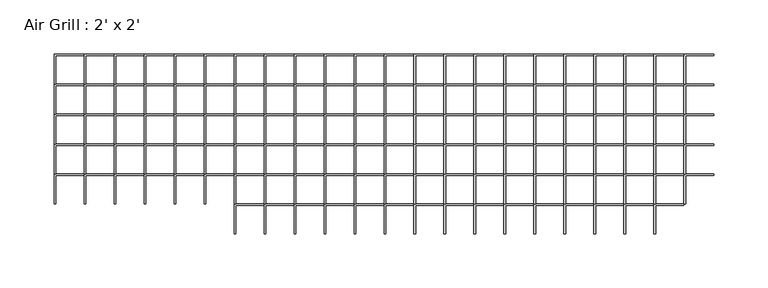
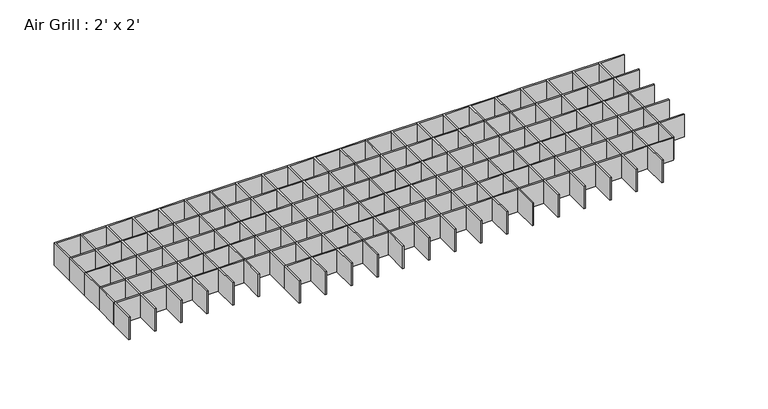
"""IFC4 building model written with IfcOpenShell, lengths in millimetres: proxy geometry, Air Grill : 2' x 2'."""

from ifc_helpers import new_model, si_unit, frame, origin, place, context, project, spatial, polyline, outline, extrude, source, transform, mapped, element, save


def air_grill_2_x_2_3d4e8104(model_context):
    return source(origin(), model_context, "Body", "SweptSolid", [
        extrude(outline(polyline([(247.9386364, 277.1630682), (275.5755682, 277.1630682), (275.5755682, 275.5755682), (249.5261364, 275.5755682), (249.5261364, 249.5261364), (247.9386364, 249.5261364), (247.9386364, 277.1630682)])), frame((0.0, 0.0, 2438.4), z_axis=(0.0, 0.0, 1.0), x_axis=(1.0, 0.0, 0.0)), (0.0, 0.0, 1.0), 25.4),
        extrude(outline(polyline([(220.3017045, 277.1630682), (247.9386364, 277.1630682), (247.9386364, 275.5755682), (221.8892045, 275.5755682), (221.8892045, 249.5261364), (220.3017045, 249.5261364), (220.3017045, 277.1630682)])), frame((0.0, 0.0, 2438.4), z_axis=(0.0, 0.0, 1.0), x_axis=(1.0, 0.0, 0.0)), (0.0, 0.0, 1.0), 25.4),
        extrude(outline(polyline([(192.6647727, 277.1630682), (220.3017045, 277.1630682), (220.3017045, 275.5755682), (194.2522727, 275.5755682), (194.2522727, 249.5261364), (192.6647727, 249.5261364), (192.6647727, 277.1630682)])), frame((0.0, 0.0, 2438.4), z_axis=(0.0, 0.0, 1.0), x_axis=(1.0, 0.0, 0.0)), (0.0, 0.0, 1.0), 25.4),
        extrude(outline(polyline([(165.0278409, 277.1630682), (192.6647727, 277.1630682), (192.6647727, 275.5755682), (166.6153409, 275.5755682), (166.6153409, 249.5261364), (165.0278409, 249.5261364), (165.0278409, 277.1630682)])), frame((0.0, 0.0, 2438.4), z_axis=(0.0, 0.0, 1.0), x_axis=(1.0, 0.0, 0.0)), (0.0, 0.0, 1.0), 25.4),
        extrude(outline(polyline([(137.3909091, 277.1630682), (165.0278409, 277.1630682), (165.0278409, 275.5755682), (138.9784091, 275.5755682), (138.9784091, 249.5261364), (137.3909091, 249.5261364), (137.3909091, 277.1630682)])), frame((0.0, 0.0, 2438.4), z_axis=(0.0, 0.0, 1.0), x_axis=(1.0, 0.0, 0.0)), (0.0, 0.0, 1.0), 25.4),
        extrude(outline(polyline([(109.7539773, 277.1630682), (137.3909091, 277.1630682), (137.3909091, 275.5755682), (111.3414773, 275.5755682), (111.3414773, 249.5261364), (109.7539773, 249.5261364), (109.7539773, 277.1630682)])), frame((0.0, 0.0, 2438.4), z_axis=(0.0, 0.0, 1.0), x_axis=(1.0, 0.0, 0.0)), (0.0, 0.0, 1.0), 25.4),
        extrude(outline(polyline([(82.1170455, 277.1630682), (109.7539773, 277.1630682), (109.7539773, 275.5755682), (83.7045455, 275.5755682), (83.7045455, 249.5261364), (82.1170455, 249.5261364), (82.1170455, 277.1630682)])), frame((0.0, 0.0, 2438.4), z_axis=(0.0, 0.0, 1.0), x_axis=(1.0, 0.0, 0.0)), (0.0, 0.0, 1.0), 25.4),
        extrude(outline(polyline([(54.4801136, 277.1630682), (82.1170455, 277.1630682), (82.1170455, 275.5755682), (56.0676136, 275.5755682), (56.0676136, 249.5261364), (54.4801136, 249.5261364), (54.4801136, 277.1630682)])), frame((0.0, 0.0, 2438.4), z_axis=(0.0, 0.0, 1.0), x_axis=(1.0, 0.0, 0.0)), (0.0, 0.0, 1.0), 25.4),
        extrude(outline(polyline([(26.8431818, 277.1630682), (54.4801136, 277.1630682), (54.4801136, 275.5755682), (28.4306818, 275.5755682), (28.4306818, 249.5261364), (26.8431818, 249.5261364), (26.8431818, 277.1630682)])), frame((0.0, 0.0, 2438.4), z_axis=(0.0, 0.0, 1.0), x_axis=(1.0, 0.0, 0.0)), (0.0, 0.0, 1.0), 25.4),
        extrude(outline(polyline([(-0.79375, 277.1630682), (26.8431818, 277.1630682), (26.8431818, 275.5755682), (0.79375, 275.5755682), (0.79375, 249.5261364), (-0.79375, 249.5261364), (-0.79375, 277.1630682)])), frame((0.0, 0.0, 2438.4), z_axis=(0.0, 0.0, 1.0), x_axis=(1.0, 0.0, 0.0)), (0.0, 0.0, 1.0), 25.4),
        extrude(outline(polyline([(-28.4306818, 277.1630682), (-0.79375, 277.1630682), (-0.79375, 275.5755682), (-26.8431818, 275.5755682), (-26.8431818, 249.5261364), (-28.4306818, 249.5261364), (-28.4306818, 277.1630682)])), frame((0.0, 0.0, 2438.4), z_axis=(0.0, 0.0, 1.0), x_axis=(1.0, 0.0, 0.0)), (0.0, 0.0, 1.0), 25.4),
        extrude(outline(polyline([(-56.0676136, 277.1630682), (-28.4306818, 277.1630682), (-28.4306818, 275.5755682), (-54.4801136, 275.5755682), (-54.4801136, 249.5261364), (-56.0676136, 249.5261364), (-56.0676136, 277.1630682)])), frame((0.0, 0.0, 2438.4), z_axis=(0.0, 0.0, 1.0), x_axis=(1.0, 0.0, 0.0)), (0.0, 0.0, 1.0), 25.4),
        extrude(outline(polyline([(-83.7045455, 277.1630682), (-56.0676136, 277.1630682), (-56.0676136, 275.5755682), (-82.1170455, 275.5755682), (-82.1170455, 249.5261364), (-83.7045455, 249.5261364), (-83.7045455, 277.1630682)])), frame((0.0, 0.0, 2438.4), z_axis=(0.0, 0.0, 1.0), x_axis=(1.0, 0.0, 0.0)), (0.0, 0.0, 1.0), 25.4),
        extrude(outline(polyline([(-111.3414773, 277.1630682), (-83.7045455, 277.1630682), (-83.7045455, 275.5755682), (-109.7539773, 275.5755682), (-109.7539773, 249.5261364), (-111.3414773, 249.5261364), (-111.3414773, 277.1630682)])), frame((0.0, 0.0, 2438.4), z_axis=(0.0, 0.0, 1.0), x_axis=(1.0, 0.0, 0.0)), (0.0, 0.0, 1.0), 25.4),
        extrude(outline(polyline([(-138.9784091, 277.1630682), (-111.3414773, 277.1630682), (-111.3414773, 275.5755682), (-137.3909091, 275.5755682), (-137.3909091, 249.5261364), (-138.9784091, 249.5261364), (-138.9784091, 277.1630682)])), frame((0.0, 0.0, 2438.4), z_axis=(0.0, 0.0, 1.0), x_axis=(1.0, 0.0, 0.0)), (0.0, 0.0, 1.0), 25.4),
        extrude(outline(polyline([(-166.6153409, 277.1630682), (-138.9784091, 277.1630682), (-138.9784091, 275.5755682), (-165.0278409, 275.5755682), (-165.0278409, 249.5261364), (-166.6153409, 249.5261364), (-166.6153409, 277.1630682)])), frame((0.0, 0.0, 2438.4), z_axis=(0.0, 0.0, 1.0), x_axis=(1.0, 0.0, 0.0)), (0.0, 0.0, 1.0), 25.4),
        extrude(outline(polyline([(-194.2522727, 277.1630682), (-166.6153409, 277.1630682), (-166.6153409, 275.5755682), (-192.6647727, 275.5755682), (-192.6647727, 249.5261364), (-194.2522727, 249.5261364), (-194.2522727, 277.1630682)])), frame((0.0, 0.0, 2438.4), z_axis=(0.0, 0.0, 1.0), x_axis=(1.0, 0.0, 0.0)), (0.0, 0.0, 1.0), 25.4),
        extrude(outline(polyline([(-221.8892045, 277.1630682), (-194.2522727, 277.1630682), (-194.2522727, 275.5755682), (-220.3017045, 275.5755682), (-220.3017045, 249.5261364), (-221.8892045, 249.5261364), (-221.8892045, 277.1630682)])), frame((0.0, 0.0, 2438.4), z_axis=(0.0, 0.0, 1.0), x_axis=(1.0, 0.0, 0.0)), (0.0, 0.0, 1.0), 25.4),
        extrude(outline(polyline([(-249.5261364, 277.1630682), (-221.8892045, 277.1630682), (-221.8892045, 275.5755682), (-247.9386364, 275.5755682), (-247.9386364, 249.5261364), (-249.5261364, 249.5261364), (-249.5261364, 277.1630682)])), frame((0.0, 0.0, 2438.4), z_axis=(0.0, 0.0, 1.0), x_axis=(1.0, 0.0, 0.0)), (0.0, 0.0, 1.0), 25.4),
        extrude(outline(polyline([(-277.1630682, 277.1630682), (-249.5261364, 277.1630682), (-249.5261364, 275.5755682), (-275.5755682, 275.5755682), (-275.5755682, 249.5261364), (-277.1630682, 249.5261364), (-277.1630682, 277.1630682)])), frame((0.0, 0.0, 2438.4), z_axis=(0.0, 0.0, 1.0), x_axis=(1.0, 0.0, 0.0)), (0.0, 0.0, 1.0), 25.4),
        extrude(outline(polyline([(275.5755682, 277.1630682), (303.2125, 277.1630682), (303.2125, 275.5755682), (277.1630682, 275.5755682), (277.1630682, 249.5261364), (275.5755682, 249.5261364), (275.5755682, 277.1630682)])), frame((0.0, 0.0, 2438.4), z_axis=(0.0, 0.0, 1.0), x_axis=(1.0, 0.0, 0.0)), (0.0, 0.0, 1.0), 25.4),
        extrude(outline(polyline([(-304.8, 277.1630682), (-277.1630682, 277.1630682), (-277.1630682, 275.5755682), (-303.2125, 275.5755682), (-303.2125, 249.5261364), (-304.8, 249.5261364), (-304.8, 277.1630682)])), frame((0.0, 0.0, 2438.4), z_axis=(0.0, 0.0, 1.0), x_axis=(1.0, 0.0, 0.0)), (0.0, 0.0, 1.0), 25.4),
        extrude(outline(polyline([(247.9386364, 249.5261364), (275.5755682, 249.5261364), (275.5755682, 247.9386364), (249.5261364, 247.9386364), (249.5261364, 221.8892045), (247.9386364, 221.8892045), (247.9386364, 249.5261364)])), frame((0.0, 0.0, 2438.4), z_axis=(0.0, 0.0, 1.0), x_axis=(1.0, 0.0, 0.0)), (0.0, 0.0, 1.0), 25.4),
        extrude(outline(polyline([(220.3017045, 249.5261364), (247.9386364, 249.5261364), (247.9386364, 247.9386364), (221.8892045, 247.9386364), (221.8892045, 221.8892045), (220.3017045, 221.8892045), (220.3017045, 249.5261364)])), frame((0.0, 0.0, 2438.4), z_axis=(0.0, 0.0, 1.0), x_axis=(1.0, 0.0, 0.0)), (0.0, 0.0, 1.0), 25.4),
        extrude(outline(polyline([(192.6647727, 249.5261364), (220.3017045, 249.5261364), (220.3017045, 247.9386364), (194.2522727, 247.9386364), (194.2522727, 221.8892045), (192.6647727, 221.8892045), (192.6647727, 249.5261364)])), frame((0.0, 0.0, 2438.4), z_axis=(0.0, 0.0, 1.0), x_axis=(1.0, 0.0, 0.0)), (0.0, 0.0, 1.0), 25.4),
        extrude(outline(polyline([(165.0278409, 249.5261364), (192.6647727, 249.5261364), (192.6647727, 247.9386364), (166.6153409, 247.9386364), (166.6153409, 221.8892045), (165.0278409, 221.8892045), (165.0278409, 249.5261364)])), frame((0.0, 0.0, 2438.4), z_axis=(0.0, 0.0, 1.0), x_axis=(1.0, 0.0, 0.0)), (0.0, 0.0, 1.0), 25.4),
        extrude(outline(polyline([(137.3909091, 249.5261364), (165.0278409, 249.5261364), (165.0278409, 247.9386364), (138.9784091, 247.9386364), (138.9784091, 221.8892045), (137.3909091, 221.8892045), (137.3909091, 249.5261364)])), frame((0.0, 0.0, 2438.4), z_axis=(0.0, 0.0, 1.0), x_axis=(1.0, 0.0, 0.0)), (0.0, 0.0, 1.0), 25.4),
        extrude(outline(polyline([(109.7539773, 249.5261364), (137.3909091, 249.5261364), (137.3909091, 247.9386364), (111.3414773, 247.9386364), (111.3414773, 221.8892045), (109.7539773, 221.8892045), (109.7539773, 249.5261364)])), frame((0.0, 0.0, 2438.4), z_axis=(0.0, 0.0, 1.0), x_axis=(1.0, 0.0, 0.0)), (0.0, 0.0, 1.0), 25.4),
        extrude(outline(polyline([(82.1170455, 249.5261364), (109.7539773, 249.5261364), (109.7539773, 247.9386364), (83.7045455, 247.9386364), (83.7045455, 221.8892045), (82.1170455, 221.8892045), (82.1170455, 249.5261364)])), frame((0.0, 0.0, 2438.4), z_axis=(0.0, 0.0, 1.0), x_axis=(1.0, 0.0, 0.0)), (0.0, 0.0, 1.0), 25.4),
        extrude(outline(polyline([(54.4801136, 249.5261364), (82.1170455, 249.5261364), (82.1170455, 247.9386364), (56.0676136, 247.9386364), (56.0676136, 221.8892045), (54.4801136, 221.8892045), (54.4801136, 249.5261364)])), frame((0.0, 0.0, 2438.4), z_axis=(0.0, 0.0, 1.0), x_axis=(1.0, 0.0, 0.0)), (0.0, 0.0, 1.0), 25.4),
        extrude(outline(polyline([(26.8431818, 249.5261364), (54.4801136, 249.5261364), (54.4801136, 247.9386364), (28.4306818, 247.9386364), (28.4306818, 221.8892045), (26.8431818, 221.8892045), (26.8431818, 249.5261364)])), frame((0.0, 0.0, 2438.4), z_axis=(0.0, 0.0, 1.0), x_axis=(1.0, 0.0, 0.0)), (0.0, 0.0, 1.0), 25.4),
        extrude(outline(polyline([(-0.79375, 249.5261364), (26.8431818, 249.5261364), (26.8431818, 247.9386364), (0.79375, 247.9386364), (0.79375, 221.8892045), (-0.79375, 221.8892045), (-0.79375, 249.5261364)])), frame((0.0, 0.0, 2438.4), z_axis=(0.0, 0.0, 1.0), x_axis=(1.0, 0.0, 0.0)), (0.0, 0.0, 1.0), 25.4),
        extrude(outline(polyline([(-28.4306818, 249.5261364), (-0.79375, 249.5261364), (-0.79375, 247.9386364), (-26.8431818, 247.9386364), (-26.8431818, 221.8892045), (-28.4306818, 221.8892045), (-28.4306818, 249.5261364)])), frame((0.0, 0.0, 2438.4), z_axis=(0.0, 0.0, 1.0), x_axis=(1.0, 0.0, 0.0)), (0.0, 0.0, 1.0), 25.4),
        extrude(outline(polyline([(-56.0676136, 249.5261364), (-28.4306818, 249.5261364), (-28.4306818, 247.9386364), (-54.4801136, 247.9386364), (-54.4801136, 221.8892045), (-56.0676136, 221.8892045), (-56.0676136, 249.5261364)])), frame((0.0, 0.0, 2438.4), z_axis=(0.0, 0.0, 1.0), x_axis=(1.0, 0.0, 0.0)), (0.0, 0.0, 1.0), 25.4),
        extrude(outline(polyline([(-83.7045455, 249.5261364), (-56.0676136, 249.5261364), (-56.0676136, 247.9386364), (-82.1170455, 247.9386364), (-82.1170455, 221.8892045), (-83.7045455, 221.8892045), (-83.7045455, 249.5261364)])), frame((0.0, 0.0, 2438.4), z_axis=(0.0, 0.0, 1.0), x_axis=(1.0, 0.0, 0.0)), (0.0, 0.0, 1.0), 25.4),
        extrude(outline(polyline([(-111.3414773, 249.5261364), (-83.7045455, 249.5261364), (-83.7045455, 247.9386364), (-109.7539773, 247.9386364), (-109.7539773, 221.8892045), (-111.3414773, 221.8892045), (-111.3414773, 249.5261364)])), frame((0.0, 0.0, 2438.4), z_axis=(0.0, 0.0, 1.0), x_axis=(1.0, 0.0, 0.0)), (0.0, 0.0, 1.0), 25.4),
        extrude(outline(polyline([(-138.9784091, 249.5261364), (-111.3414773, 249.5261364), (-111.3414773, 247.9386364), (-137.3909091, 247.9386364), (-137.3909091, 221.8892045), (-138.9784091, 221.8892045), (-138.9784091, 249.5261364)])), frame((0.0, 0.0, 2438.4), z_axis=(0.0, 0.0, 1.0), x_axis=(1.0, 0.0, 0.0)), (0.0, 0.0, 1.0), 25.4),
        extrude(outline(polyline([(-166.6153409, 249.5261364), (-138.9784091, 249.5261364), (-138.9784091, 247.9386364), (-165.0278409, 247.9386364), (-165.0278409, 221.8892045), (-166.6153409, 221.8892045), (-166.6153409, 249.5261364)])), frame((0.0, 0.0, 2438.4), z_axis=(0.0, 0.0, 1.0), x_axis=(1.0, 0.0, 0.0)), (0.0, 0.0, 1.0), 25.4),
        extrude(outline(polyline([(-194.2522727, 249.5261364), (-166.6153409, 249.5261364), (-166.6153409, 247.9386364), (-192.6647727, 247.9386364), (-192.6647727, 221.8892045), (-194.2522727, 221.8892045), (-194.2522727, 249.5261364)])), frame((0.0, 0.0, 2438.4), z_axis=(0.0, 0.0, 1.0), x_axis=(1.0, 0.0, 0.0)), (0.0, 0.0, 1.0), 25.4),
        extrude(outline(polyline([(-221.8892045, 249.5261364), (-194.2522727, 249.5261364), (-194.2522727, 247.9386364), (-220.3017045, 247.9386364), (-220.3017045, 221.8892045), (-221.8892045, 221.8892045), (-221.8892045, 249.5261364)])), frame((0.0, 0.0, 2438.4), z_axis=(0.0, 0.0, 1.0), x_axis=(1.0, 0.0, 0.0)), (0.0, 0.0, 1.0), 25.4),
        extrude(outline(polyline([(-249.5261364, 249.5261364), (-221.8892045, 249.5261364), (-221.8892045, 247.9386364), (-247.9386364, 247.9386364), (-247.9386364, 221.8892045), (-249.5261364, 221.8892045), (-249.5261364, 249.5261364)])), frame((0.0, 0.0, 2438.4), z_axis=(0.0, 0.0, 1.0), x_axis=(1.0, 0.0, 0.0)), (0.0, 0.0, 1.0), 25.4),
        extrude(outline(polyline([(-277.1630682, 249.5261364), (-249.5261364, 249.5261364), (-249.5261364, 247.9386364), (-275.5755682, 247.9386364), (-275.5755682, 221.8892045), (-277.1630682, 221.8892045), (-277.1630682, 249.5261364)])), frame((0.0, 0.0, 2438.4), z_axis=(0.0, 0.0, 1.0), x_axis=(1.0, 0.0, 0.0)), (0.0, 0.0, 1.0), 25.4),
        extrude(outline(polyline([(275.5755682, 249.5261364), (303.2125, 249.5261364), (303.2125, 247.9386364), (277.1630682, 247.9386364), (277.1630682, 221.8892045), (275.5755682, 221.8892045), (275.5755682, 249.5261364)])), frame((0.0, 0.0, 2438.4), z_axis=(0.0, 0.0, 1.0), x_axis=(1.0, 0.0, 0.0)), (0.0, 0.0, 1.0), 25.4),
        extrude(outline(polyline([(-304.8, 249.5261364), (-277.1630682, 249.5261364), (-277.1630682, 247.9386364), (-303.2125, 247.9386364), (-303.2125, 221.8892045), (-304.8, 221.8892045), (-304.8, 249.5261364)])), frame((0.0, 0.0, 2438.4), z_axis=(0.0, 0.0, 1.0), x_axis=(1.0, 0.0, 0.0)), (0.0, 0.0, 1.0), 25.4),
        extrude(outline(polyline([(247.9386364, 221.8892045), (275.5755682, 221.8892045), (275.5755682, 220.3017045), (249.5261364, 220.3017045), (249.5261364, 194.2522727), (247.9386364, 194.2522727), (247.9386364, 221.8892045)])), frame((0.0, 0.0, 2438.4), z_axis=(0.0, 0.0, 1.0), x_axis=(1.0, 0.0, 0.0)), (0.0, 0.0, 1.0), 25.4),
        extrude(outline(polyline([(220.3017045, 221.8892045), (247.9386364, 221.8892045), (247.9386364, 220.3017045), (221.8892045, 220.3017045), (221.8892045, 194.2522727), (220.3017045, 194.2522727), (220.3017045, 221.8892045)])), frame((0.0, 0.0, 2438.4), z_axis=(0.0, 0.0, 1.0), x_axis=(1.0, 0.0, 0.0)), (0.0, 0.0, 1.0), 25.4),
        extrude(outline(polyline([(192.6647727, 221.8892045), (220.3017045, 221.8892045), (220.3017045, 220.3017045), (194.2522727, 220.3017045), (194.2522727, 194.2522727), (192.6647727, 194.2522727), (192.6647727, 221.8892045)])), frame((0.0, 0.0, 2438.4), z_axis=(0.0, 0.0, 1.0), x_axis=(1.0, 0.0, 0.0)), (0.0, 0.0, 1.0), 25.4),
        extrude(outline(polyline([(165.0278409, 221.8892045), (192.6647727, 221.8892045), (192.6647727, 220.3017045), (166.6153409, 220.3017045), (166.6153409, 194.2522727), (165.0278409, 194.2522727), (165.0278409, 221.8892045)])), frame((0.0, 0.0, 2438.4), z_axis=(0.0, 0.0, 1.0), x_axis=(1.0, 0.0, 0.0)), (0.0, 0.0, 1.0), 25.4),
        extrude(outline(polyline([(137.3909091, 221.8892045), (165.0278409, 221.8892045), (165.0278409, 220.3017045), (138.9784091, 220.3017045), (138.9784091, 194.2522727), (137.3909091, 194.2522727), (137.3909091, 221.8892045)])), frame((0.0, 0.0, 2438.4), z_axis=(0.0, 0.0, 1.0), x_axis=(1.0, 0.0, 0.0)), (0.0, 0.0, 1.0), 25.4),
        extrude(outline(polyline([(109.7539773, 221.8892045), (137.3909091, 221.8892045), (137.3909091, 220.3017045), (111.3414773, 220.3017045), (111.3414773, 194.2522727), (109.7539773, 194.2522727), (109.7539773, 221.8892045)])), frame((0.0, 0.0, 2438.4), z_axis=(0.0, 0.0, 1.0), x_axis=(1.0, 0.0, 0.0)), (0.0, 0.0, 1.0), 25.4),
        extrude(outline(polyline([(82.1170455, 221.8892045), (109.7539773, 221.8892045), (109.7539773, 220.3017045), (83.7045455, 220.3017045), (83.7045455, 194.2522727), (82.1170455, 194.2522727), (82.1170455, 221.8892045)])), frame((0.0, 0.0, 2438.4), z_axis=(0.0, 0.0, 1.0), x_axis=(1.0, 0.0, 0.0)), (0.0, 0.0, 1.0), 25.4),
        extrude(outline(polyline([(54.4801136, 221.8892045), (82.1170455, 221.8892045), (82.1170455, 220.3017045), (56.0676136, 220.3017045), (56.0676136, 194.2522727), (54.4801136, 194.2522727), (54.4801136, 221.8892045)])), frame((0.0, 0.0, 2438.4), z_axis=(0.0, 0.0, 1.0), x_axis=(1.0, 0.0, 0.0)), (0.0, 0.0, 1.0), 25.4),
        extrude(outline(polyline([(26.8431818, 221.8892045), (54.4801136, 221.8892045), (54.4801136, 220.3017045), (28.4306818, 220.3017045), (28.4306818, 194.2522727), (26.8431818, 194.2522727), (26.8431818, 221.8892045)])), frame((0.0, 0.0, 2438.4), z_axis=(0.0, 0.0, 1.0), x_axis=(1.0, 0.0, 0.0)), (0.0, 0.0, 1.0), 25.4),
        extrude(outline(polyline([(-0.79375, 221.8892045), (26.8431818, 221.8892045), (26.8431818, 220.3017045), (0.79375, 220.3017045), (0.79375, 194.2522727), (-0.79375, 194.2522727), (-0.79375, 221.8892045)])), frame((0.0, 0.0, 2438.4), z_axis=(0.0, 0.0, 1.0), x_axis=(1.0, 0.0, 0.0)), (0.0, 0.0, 1.0), 25.4),
        extrude(outline(polyline([(-28.4306818, 221.8892045), (-0.79375, 221.8892045), (-0.79375, 220.3017045), (-26.8431818, 220.3017045), (-26.8431818, 194.2522727), (-28.4306818, 194.2522727), (-28.4306818, 221.8892045)])), frame((0.0, 0.0, 2438.4), z_axis=(0.0, 0.0, 1.0), x_axis=(1.0, 0.0, 0.0)), (0.0, 0.0, 1.0), 25.4),
        extrude(outline(polyline([(-56.0676136, 221.8892045), (-28.4306818, 221.8892045), (-28.4306818, 220.3017045), (-54.4801136, 220.3017045), (-54.4801136, 194.2522727), (-56.0676136, 194.2522727), (-56.0676136, 221.8892045)])), frame((0.0, 0.0, 2438.4), z_axis=(0.0, 0.0, 1.0), x_axis=(1.0, 0.0, 0.0)), (0.0, 0.0, 1.0), 25.4),
        extrude(outline(polyline([(-83.7045455, 221.8892045), (-56.0676136, 221.8892045), (-56.0676136, 220.3017045), (-82.1170455, 220.3017045), (-82.1170455, 194.2522727), (-83.7045455, 194.2522727), (-83.7045455, 221.8892045)])), frame((0.0, 0.0, 2438.4), z_axis=(0.0, 0.0, 1.0), x_axis=(1.0, 0.0, 0.0)), (0.0, 0.0, 1.0), 25.4),
        extrude(outline(polyline([(-111.3414773, 221.8892045), (-83.7045455, 221.8892045), (-83.7045455, 220.3017045), (-109.7539773, 220.3017045), (-109.7539773, 194.2522727), (-111.3414773, 194.2522727), (-111.3414773, 221.8892045)])), frame((0.0, 0.0, 2438.4), z_axis=(0.0, 0.0, 1.0), x_axis=(1.0, 0.0, 0.0)), (0.0, 0.0, 1.0), 25.4),
        extrude(outline(polyline([(-138.9784091, 221.8892045), (-111.3414773, 221.8892045), (-111.3414773, 220.3017045), (-137.3909091, 220.3017045), (-137.3909091, 194.2522727), (-138.9784091, 194.2522727), (-138.9784091, 221.8892045)])), frame((0.0, 0.0, 2438.4), z_axis=(0.0, 0.0, 1.0), x_axis=(1.0, 0.0, 0.0)), (0.0, 0.0, 1.0), 25.4),
        extrude(outline(polyline([(-166.6153409, 221.8892045), (-138.9784091, 221.8892045), (-138.9784091, 220.3017045), (-165.0278409, 220.3017045), (-165.0278409, 194.2522727), (-166.6153409, 194.2522727), (-166.6153409, 221.8892045)])), frame((0.0, 0.0, 2438.4), z_axis=(0.0, 0.0, 1.0), x_axis=(1.0, 0.0, 0.0)), (0.0, 0.0, 1.0), 25.4),
        extrude(outline(polyline([(-194.2522727, 221.8892045), (-166.6153409, 221.8892045), (-166.6153409, 220.3017045), (-192.6647727, 220.3017045), (-192.6647727, 194.2522727), (-194.2522727, 194.2522727), (-194.2522727, 221.8892045)])), frame((0.0, 0.0, 2438.4), z_axis=(0.0, 0.0, 1.0), x_axis=(1.0, 0.0, 0.0)), (0.0, 0.0, 1.0), 25.4),
        extrude(outline(polyline([(-221.8892045, 221.8892045), (-194.2522727, 221.8892045), (-194.2522727, 220.3017045), (-220.3017045, 220.3017045), (-220.3017045, 194.2522727), (-221.8892045, 194.2522727), (-221.8892045, 221.8892045)])), frame((0.0, 0.0, 2438.4), z_axis=(0.0, 0.0, 1.0), x_axis=(1.0, 0.0, 0.0)), (0.0, 0.0, 1.0), 25.4),
        extrude(outline(polyline([(-249.5261364, 221.8892045), (-221.8892045, 221.8892045), (-221.8892045, 220.3017045), (-247.9386364, 220.3017045), (-247.9386364, 194.2522727), (-249.5261364, 194.2522727), (-249.5261364, 221.8892045)])), frame((0.0, 0.0, 2438.4), z_axis=(0.0, 0.0, 1.0), x_axis=(1.0, 0.0, 0.0)), (0.0, 0.0, 1.0), 25.4),
        extrude(outline(polyline([(-277.1630682, 221.8892045), (-249.5261364, 221.8892045), (-249.5261364, 220.3017045), (-275.5755682, 220.3017045), (-275.5755682, 194.2522727), (-277.1630682, 194.2522727), (-277.1630682, 221.8892045)])), frame((0.0, 0.0, 2438.4), z_axis=(0.0, 0.0, 1.0), x_axis=(1.0, 0.0, 0.0)), (0.0, 0.0, 1.0), 25.4),
        extrude(outline(polyline([(275.5755682, 221.8892045), (303.2125, 221.8892045), (303.2125, 220.3017045), (277.1630682, 220.3017045), (277.1630682, 194.2522727), (275.5755682, 194.2522727), (275.5755682, 221.8892045)])), frame((0.0, 0.0, 2438.4), z_axis=(0.0, 0.0, 1.0), x_axis=(1.0, 0.0, 0.0)), (0.0, 0.0, 1.0), 25.4),
        extrude(outline(polyline([(-304.8, 221.8892045), (-277.1630682, 221.8892045), (-277.1630682, 220.3017045), (-303.2125, 220.3017045), (-303.2125, 194.2522727), (-304.8, 194.2522727), (-304.8, 221.8892045)])), frame((0.0, 0.0, 2438.4), z_axis=(0.0, 0.0, 1.0), x_axis=(1.0, 0.0, 0.0)), (0.0, 0.0, 1.0), 25.4),
        extrude(outline(polyline([(247.9386364, 194.2522727), (275.5755682, 194.2522727), (275.5755682, 192.6647727), (249.5261364, 192.6647727), (249.5261364, 166.6153409), (247.9386364, 166.6153409), (247.9386364, 194.2522727)])), frame((0.0, 0.0, 2438.4), z_axis=(0.0, 0.0, 1.0), x_axis=(1.0, 0.0, 0.0)), (0.0, 0.0, 1.0), 25.4),
        extrude(outline(polyline([(220.3017045, 194.2522727), (247.9386364, 194.2522727), (247.9386364, 192.6647727), (221.8892045, 192.6647727), (221.8892045, 166.6153409), (220.3017045, 166.6153409), (220.3017045, 194.2522727)])), frame((0.0, 0.0, 2438.4), z_axis=(0.0, 0.0, 1.0), x_axis=(1.0, 0.0, 0.0)), (0.0, 0.0, 1.0), 25.4),
        extrude(outline(polyline([(192.6647727, 194.2522727), (220.3017045, 194.2522727), (220.3017045, 192.6647727), (194.2522727, 192.6647727), (194.2522727, 166.6153409), (192.6647727, 166.6153409), (192.6647727, 194.2522727)])), frame((0.0, 0.0, 2438.4), z_axis=(0.0, 0.0, 1.0), x_axis=(1.0, 0.0, 0.0)), (0.0, 0.0, 1.0), 25.4),
        extrude(outline(polyline([(165.0278409, 194.2522727), (192.6647727, 194.2522727), (192.6647727, 192.6647727), (166.6153409, 192.6647727), (166.6153409, 166.6153409), (165.0278409, 166.6153409), (165.0278409, 194.2522727)])), frame((0.0, 0.0, 2438.4), z_axis=(0.0, 0.0, 1.0), x_axis=(1.0, 0.0, 0.0)), (0.0, 0.0, 1.0), 25.4),
        extrude(outline(polyline([(137.3909091, 194.2522727), (165.0278409, 194.2522727), (165.0278409, 192.6647727), (138.9784091, 192.6647727), (138.9784091, 166.6153409), (137.3909091, 166.6153409), (137.3909091, 194.2522727)])), frame((0.0, 0.0, 2438.4), z_axis=(0.0, 0.0, 1.0), x_axis=(1.0, 0.0, 0.0)), (0.0, 0.0, 1.0), 25.4),
        extrude(outline(polyline([(109.7539773, 194.2522727), (137.3909091, 194.2522727), (137.3909091, 192.6647727), (111.3414773, 192.6647727), (111.3414773, 166.6153409), (109.7539773, 166.6153409), (109.7539773, 194.2522727)])), frame((0.0, 0.0, 2438.4), z_axis=(0.0, 0.0, 1.0), x_axis=(1.0, 0.0, 0.0)), (0.0, 0.0, 1.0), 25.4),
        extrude(outline(polyline([(82.1170455, 194.2522727), (109.7539773, 194.2522727), (109.7539773, 192.6647727), (83.7045455, 192.6647727), (83.7045455, 166.6153409), (82.1170455, 166.6153409), (82.1170455, 194.2522727)])), frame((0.0, 0.0, 2438.4), z_axis=(0.0, 0.0, 1.0), x_axis=(1.0, 0.0, 0.0)), (0.0, 0.0, 1.0), 25.4),
        extrude(outline(polyline([(54.4801136, 194.2522727), (82.1170455, 194.2522727), (82.1170455, 192.6647727), (56.0676136, 192.6647727), (56.0676136, 166.6153409), (54.4801136, 166.6153409), (54.4801136, 194.2522727)])), frame((0.0, 0.0, 2438.4), z_axis=(0.0, 0.0, 1.0), x_axis=(1.0, 0.0, 0.0)), (0.0, 0.0, 1.0), 25.4),
        extrude(outline(polyline([(26.8431818, 194.2522727), (54.4801136, 194.2522727), (54.4801136, 192.6647727), (28.4306818, 192.6647727), (28.4306818, 166.6153409), (26.8431818, 166.6153409), (26.8431818, 194.2522727)])), frame((0.0, 0.0, 2438.4), z_axis=(0.0, 0.0, 1.0), x_axis=(1.0, 0.0, 0.0)), (0.0, 0.0, 1.0), 25.4),
        extrude(outline(polyline([(-0.79375, 194.2522727), (26.8431818, 194.2522727), (26.8431818, 192.6647727), (0.79375, 192.6647727), (0.79375, 166.6153409), (-0.79375, 166.6153409), (-0.79375, 194.2522727)])), frame((0.0, 0.0, 2438.4), z_axis=(0.0, 0.0, 1.0), x_axis=(1.0, 0.0, 0.0)), (0.0, 0.0, 1.0), 25.4),
        extrude(outline(polyline([(-28.4306818, 194.2522727), (-0.79375, 194.2522727), (-0.79375, 192.6647727), (-26.8431818, 192.6647727), (-26.8431818, 166.6153409), (-28.4306818, 166.6153409), (-28.4306818, 194.2522727)])), frame((0.0, 0.0, 2438.4), z_axis=(0.0, 0.0, 1.0), x_axis=(1.0, 0.0, 0.0)), (0.0, 0.0, 1.0), 25.4),
        extrude(outline(polyline([(-56.0676136, 194.2522727), (-28.4306818, 194.2522727), (-28.4306818, 192.6647727), (-54.4801136, 192.6647727), (-54.4801136, 166.6153409), (-56.0676136, 166.6153409), (-56.0676136, 194.2522727)])), frame((0.0, 0.0, 2438.4), z_axis=(0.0, 0.0, 1.0), x_axis=(1.0, 0.0, 0.0)), (0.0, 0.0, 1.0), 25.4),
        extrude(outline(polyline([(-83.7045455, 194.2522727), (-56.0676136, 194.2522727), (-56.0676136, 192.6647727), (-82.1170455, 192.6647727), (-82.1170455, 166.6153409), (-83.7045455, 166.6153409), (-83.7045455, 194.2522727)])), frame((0.0, 0.0, 2438.4), z_axis=(0.0, 0.0, 1.0), x_axis=(1.0, 0.0, 0.0)), (0.0, 0.0, 1.0), 25.4),
        extrude(outline(polyline([(-111.3414773, 194.2522727), (-83.7045455, 194.2522727), (-83.7045455, 192.6647727), (-109.7539773, 192.6647727), (-109.7539773, 166.6153409), (-111.3414773, 166.6153409), (-111.3414773, 194.2522727)])), frame((0.0, 0.0, 2438.4), z_axis=(0.0, 0.0, 1.0), x_axis=(1.0, 0.0, 0.0)), (0.0, 0.0, 1.0), 25.4),
        extrude(outline(polyline([(-138.9784091, 194.2522727), (-111.3414773, 194.2522727), (-111.3414773, 192.6647727), (-137.3909091, 192.6647727), (-137.3909091, 166.6153409), (-138.9784091, 166.6153409), (-138.9784091, 194.2522727)])), frame((0.0, 0.0, 2438.4), z_axis=(0.0, 0.0, 1.0), x_axis=(1.0, 0.0, 0.0)), (0.0, 0.0, 1.0), 25.4),
        extrude(outline(polyline([(-166.6153409, 194.2522727), (-138.9784091, 194.2522727), (-138.9784091, 192.6647727), (-165.0278409, 192.6647727), (-165.0278409, 166.6153409), (-166.6153409, 166.6153409), (-166.6153409, 194.2522727)])), frame((0.0, 0.0, 2438.4), z_axis=(0.0, 0.0, 1.0), x_axis=(1.0, 0.0, 0.0)), (0.0, 0.0, 1.0), 25.4),
        extrude(outline(polyline([(-194.2522727, 194.2522727), (-166.6153409, 194.2522727), (-166.6153409, 192.6647727), (-192.6647727, 192.6647727), (-192.6647727, 166.6153409), (-194.2522727, 166.6153409), (-194.2522727, 194.2522727)])), frame((0.0, 0.0, 2438.4), z_axis=(0.0, 0.0, 1.0), x_axis=(1.0, 0.0, 0.0)), (0.0, 0.0, 1.0), 25.4),
        extrude(outline(polyline([(-221.8892045, 194.2522727), (-194.2522727, 194.2522727), (-194.2522727, 192.6647727), (-220.3017045, 192.6647727), (-220.3017045, 166.6153409), (-221.8892045, 166.6153409), (-221.8892045, 194.2522727)])), frame((0.0, 0.0, 2438.4), z_axis=(0.0, 0.0, 1.0), x_axis=(1.0, 0.0, 0.0)), (0.0, 0.0, 1.0), 25.4),
        extrude(outline(polyline([(-249.5261364, 194.2522727), (-221.8892045, 194.2522727), (-221.8892045, 192.6647727), (-247.9386364, 192.6647727), (-247.9386364, 166.6153409), (-249.5261364, 166.6153409), (-249.5261364, 194.2522727)])), frame((0.0, 0.0, 2438.4), z_axis=(0.0, 0.0, 1.0), x_axis=(1.0, 0.0, 0.0)), (0.0, 0.0, 1.0), 25.4),
        extrude(outline(polyline([(-277.1630682, 194.2522727), (-249.5261364, 194.2522727), (-249.5261364, 192.6647727), (-275.5755682, 192.6647727), (-275.5755682, 166.6153409), (-277.1630682, 166.6153409), (-277.1630682, 194.2522727)])), frame((0.0, 0.0, 2438.4), z_axis=(0.0, 0.0, 1.0), x_axis=(1.0, 0.0, 0.0)), (0.0, 0.0, 1.0), 25.4),
        extrude(outline(polyline([(275.5755682, 194.2522727), (303.2125, 194.2522727), (303.2125, 192.6647727), (277.1630682, 192.6647727), (277.1630682, 166.6153409), (275.5755682, 166.6153409), (275.5755682, 194.2522727)])), frame((0.0, 0.0, 2438.4), z_axis=(0.0, 0.0, 1.0), x_axis=(1.0, 0.0, 0.0)), (0.0, 0.0, 1.0), 25.4),
        extrude(outline(polyline([(-304.8, 194.2522727), (-277.1630682, 194.2522727), (-277.1630682, 192.6647727), (-303.2125, 192.6647727), (-303.2125, 166.6153409), (-304.8, 166.6153409), (-304.8, 194.2522727)])), frame((0.0, 0.0, 2438.4), z_axis=(0.0, 0.0, 1.0), x_axis=(1.0, 0.0, 0.0)), (0.0, 0.0, 1.0), 25.4),
        extrude(outline(polyline([(247.9386364, 166.6153409), (275.5755682, 166.6153409), (275.5755682, 165.0278409), (249.5261364, 165.0278409), (249.5261364, 138.9784091), (247.9386364, 138.9784091), (247.9386364, 166.6153409)])), frame((0.0, 0.0, 2438.4), z_axis=(0.0, 0.0, 1.0), x_axis=(1.0, 0.0, 0.0)), (0.0, 0.0, 1.0), 25.4),
        extrude(outline(polyline([(220.3017045, 166.6153409), (247.9386364, 166.6153409), (247.9386364, 165.0278409), (221.8892045, 165.0278409), (221.8892045, 138.9784091), (220.3017045, 138.9784091), (220.3017045, 166.6153409)])), frame((0.0, 0.0, 2438.4), z_axis=(0.0, 0.0, 1.0), x_axis=(1.0, 0.0, 0.0)), (0.0, 0.0, 1.0), 25.4),
        extrude(outline(polyline([(192.6647727, 166.6153409), (220.3017045, 166.6153409), (220.3017045, 165.0278409), (194.2522727, 165.0278409), (194.2522727, 138.9784091), (192.6647727, 138.9784091), (192.6647727, 166.6153409)])), frame((0.0, 0.0, 2438.4), z_axis=(0.0, 0.0, 1.0), x_axis=(1.0, 0.0, 0.0)), (0.0, 0.0, 1.0), 25.4),
        extrude(outline(polyline([(165.0278409, 166.6153409), (192.6647727, 166.6153409), (192.6647727, 165.0278409), (166.6153409, 165.0278409), (166.6153409, 138.9784091), (165.0278409, 138.9784091), (165.0278409, 166.6153409)])), frame((0.0, 0.0, 2438.4), z_axis=(0.0, 0.0, 1.0), x_axis=(1.0, 0.0, 0.0)), (0.0, 0.0, 1.0), 25.4),
        extrude(outline(polyline([(137.3909091, 166.6153409), (165.0278409, 166.6153409), (165.0278409, 165.0278409), (138.9784091, 165.0278409), (138.9784091, 138.9784091), (137.3909091, 138.9784091), (137.3909091, 166.6153409)])), frame((0.0, 0.0, 2438.4), z_axis=(0.0, 0.0, 1.0), x_axis=(1.0, 0.0, 0.0)), (0.0, 0.0, 1.0), 25.4),
        extrude(outline(polyline([(109.7539773, 166.6153409), (137.3909091, 166.6153409), (137.3909091, 165.0278409), (111.3414773, 165.0278409), (111.3414773, 138.9784091), (109.7539773, 138.9784091), (109.7539773, 166.6153409)])), frame((0.0, 0.0, 2438.4), z_axis=(0.0, 0.0, 1.0), x_axis=(1.0, 0.0, 0.0)), (0.0, 0.0, 1.0), 25.4),
        extrude(outline(polyline([(82.1170455, 166.6153409), (109.7539773, 166.6153409), (109.7539773, 165.0278409), (83.7045455, 165.0278409), (83.7045455, 138.9784091), (82.1170455, 138.9784091), (82.1170455, 166.6153409)])), frame((0.0, 0.0, 2438.4), z_axis=(0.0, 0.0, 1.0), x_axis=(1.0, 0.0, 0.0)), (0.0, 0.0, 1.0), 25.4),
        extrude(outline(polyline([(54.4801136, 166.6153409), (82.1170455, 166.6153409), (82.1170455, 165.0278409), (56.0676136, 165.0278409), (56.0676136, 138.9784091), (54.4801136, 138.9784091), (54.4801136, 166.6153409)])), frame((0.0, 0.0, 2438.4), z_axis=(0.0, 0.0, 1.0), x_axis=(1.0, 0.0, 0.0)), (0.0, 0.0, 1.0), 25.4),
        extrude(outline(polyline([(26.8431818, 166.6153409), (54.4801136, 166.6153409), (54.4801136, 165.0278409), (28.4306818, 165.0278409), (28.4306818, 138.9784091), (26.8431818, 138.9784091), (26.8431818, 166.6153409)])), frame((0.0, 0.0, 2438.4), z_axis=(0.0, 0.0, 1.0), x_axis=(1.0, 0.0, 0.0)), (0.0, 0.0, 1.0), 25.4),
        extrude(outline(polyline([(-0.79375, 166.6153409), (26.8431818, 166.6153409), (26.8431818, 165.0278409), (0.79375, 165.0278409), (0.79375, 138.9784091), (-0.79375, 138.9784091), (-0.79375, 166.6153409)])), frame((0.0, 0.0, 2438.4), z_axis=(0.0, 0.0, 1.0), x_axis=(1.0, 0.0, 0.0)), (0.0, 0.0, 1.0), 25.4),
        extrude(outline(polyline([(-28.4306818, 166.6153409), (-0.79375, 166.6153409), (-0.79375, 165.0278409), (-26.8431818, 165.0278409), (-26.8431818, 138.9784091), (-28.4306818, 138.9784091), (-28.4306818, 166.6153409)])), frame((0.0, 0.0, 2438.4), z_axis=(0.0, 0.0, 1.0), x_axis=(1.0, 0.0, 0.0)), (0.0, 0.0, 1.0), 25.4),
        extrude(outline(polyline([(-56.0676136, 166.6153409), (-28.4306818, 166.6153409), (-28.4306818, 165.0278409), (-54.4801136, 165.0278409), (-54.4801136, 138.9784091), (-56.0676136, 138.9784091), (-56.0676136, 166.6153409)])), frame((0.0, 0.0, 2438.4), z_axis=(0.0, 0.0, 1.0), x_axis=(1.0, 0.0, 0.0)), (0.0, 0.0, 1.0), 25.4),
        extrude(outline(polyline([(-83.7045455, 166.6153409), (-56.0676136, 166.6153409), (-56.0676136, 165.0278409), (-82.1170455, 165.0278409), (-82.1170455, 138.9784091), (-83.7045455, 138.9784091), (-83.7045455, 166.6153409)])), frame((0.0, 0.0, 2438.4), z_axis=(0.0, 0.0, 1.0), x_axis=(1.0, 0.0, 0.0)), (0.0, 0.0, 1.0), 25.4),
        extrude(outline(polyline([(-111.3414773, 166.6153409), (-83.7045455, 166.6153409), (-83.7045455, 165.0278409), (-109.7539773, 165.0278409), (-109.7539773, 138.9784091), (-111.3414773, 138.9784091), (-111.3414773, 166.6153409)])), frame((0.0, 0.0, 2438.4), z_axis=(0.0, 0.0, 1.0), x_axis=(1.0, 0.0, 0.0)), (0.0, 0.0, 1.0), 25.4),
        extrude(outline(polyline([(-138.9784091, 166.6153409), (-111.3414773, 166.6153409), (-111.3414773, 165.0278409), (-137.3909091, 165.0278409), (-137.3909091, 138.9784091), (-138.9784091, 138.9784091), (-138.9784091, 166.6153409)])), frame((0.0, 0.0, 2438.4), z_axis=(0.0, 0.0, 1.0), x_axis=(1.0, 0.0, 0.0)), (0.0, 0.0, 1.0), 25.4),
        extrude(outline(polyline([(-166.6153409, 166.6153409), (-138.9784091, 166.6153409), (-138.9784091, 165.0278409), (-165.0278409, 165.0278409), (-165.0278409, 138.9784091), (-166.6153409, 138.9784091), (-166.6153409, 166.6153409)])), frame((0.0, 0.0, 2438.4), z_axis=(0.0, 0.0, 1.0), x_axis=(1.0, 0.0, 0.0)), (0.0, 0.0, 1.0), 25.4),
        extrude(outline(polyline([(-194.2522727, 166.6153409), (-166.6153409, 166.6153409), (-166.6153409, 165.0278409), (-192.6647727, 165.0278409), (-192.6647727, 138.9784091), (-194.2522727, 138.9784091), (-194.2522727, 166.6153409)])), frame((0.0, 0.0, 2438.4), z_axis=(0.0, 0.0, 1.0), x_axis=(1.0, 0.0, 0.0)), (0.0, 0.0, 1.0), 25.4),
        extrude(outline(polyline([(-221.8892045, 166.6153409), (-194.2522727, 166.6153409), (-194.2522727, 165.0278409), (-220.3017045, 165.0278409), (-220.3017045, 138.9784091), (-221.8892045, 138.9784091), (-221.8892045, 166.6153409)])), frame((0.0, 0.0, 2438.4), z_axis=(0.0, 0.0, 1.0), x_axis=(1.0, 0.0, 0.0)), (0.0, 0.0, 1.0), 25.4),
        extrude(outline(polyline([(-249.5261364, 166.6153409), (-221.8892045, 166.6153409), (-221.8892045, 165.0278409), (-247.9386364, 165.0278409), (-247.9386364, 138.9784091), (-249.5261364, 138.9784091), (-249.5261364, 166.6153409)])), frame((0.0, 0.0, 2438.4), z_axis=(0.0, 0.0, 1.0), x_axis=(1.0, 0.0, 0.0)), (0.0, 0.0, 1.0), 25.4),
        extrude(outline(polyline([(-277.1630682, 166.6153409), (-249.5261364, 166.6153409), (-249.5261364, 165.0278409), (-275.5755682, 165.0278409), (-275.5755682, 138.9784091), (-277.1630682, 138.9784091), (-277.1630682, 166.6153409)])), frame((0.0, 0.0, 2438.4), z_axis=(0.0, 0.0, 1.0), x_axis=(1.0, 0.0, 0.0)), (0.0, 0.0, 1.0), 25.4),
        extrude(outline(polyline([(275.5755682, 166.6153409), (303.2125, 166.6153409), (303.2125, 165.0278409), (277.1630682, 165.0278409), (277.1630682, 138.9784091), (275.5755682, 138.9784091), (275.5755682, 166.6153409)])), frame((0.0, 0.0, 2438.4), z_axis=(0.0, 0.0, 1.0), x_axis=(1.0, 0.0, 0.0)), (0.0, 0.0, 1.0), 25.4),
        extrude(outline(polyline([(-304.8, 166.6153409), (-277.1630682, 166.6153409), (-277.1630682, 165.0278409), (-303.2125, 165.0278409), (-303.2125, 138.9784091), (-304.8, 138.9784091), (-304.8, 166.6153409)])), frame((0.0, 0.0, 2438.4), z_axis=(0.0, 0.0, 1.0), x_axis=(1.0, 0.0, 0.0)), (0.0, 0.0, 1.0), 25.4),
        extrude(outline(polyline([(247.9386364, 138.9784091), (275.5755682, 138.9784091), (275.5755682, 137.3909091), (249.5261364, 137.3909091), (249.5261364, 111.3414773), (247.9386364, 111.3414773), (247.9386364, 138.9784091)])), frame((0.0, 0.0, 2438.4), z_axis=(0.0, 0.0, 1.0), x_axis=(1.0, 0.0, 0.0)), (0.0, 0.0, 1.0), 25.4),
        extrude(outline(polyline([(220.3017045, 138.9784091), (247.9386364, 138.9784091), (247.9386364, 137.3909091), (221.8892045, 137.3909091), (221.8892045, 111.3414773), (220.3017045, 111.3414773), (220.3017045, 138.9784091)])), frame((0.0, 0.0, 2438.4), z_axis=(0.0, 0.0, 1.0), x_axis=(1.0, 0.0, 0.0)), (0.0, 0.0, 1.0), 25.4),
        extrude(outline(polyline([(192.6647727, 138.9784091), (220.3017045, 138.9784091), (220.3017045, 137.3909091), (194.2522727, 137.3909091), (194.2522727, 111.3414773), (192.6647727, 111.3414773), (192.6647727, 138.9784091)])), frame((0.0, 0.0, 2438.4), z_axis=(0.0, 0.0, 1.0), x_axis=(1.0, 0.0, 0.0)), (0.0, 0.0, 1.0), 25.4),
        extrude(outline(polyline([(165.0278409, 138.9784091), (192.6647727, 138.9784091), (192.6647727, 137.3909091), (166.6153409, 137.3909091), (166.6153409, 111.3414773), (165.0278409, 111.3414773), (165.0278409, 138.9784091)])), frame((0.0, 0.0, 2438.4), z_axis=(0.0, 0.0, 1.0), x_axis=(1.0, 0.0, 0.0)), (0.0, 0.0, 1.0), 25.4),
        extrude(outline(polyline([(137.3909091, 138.9784091), (165.0278409, 138.9784091), (165.0278409, 137.3909091), (138.9784091, 137.3909091), (138.9784091, 111.3414773), (137.3909091, 111.3414773), (137.3909091, 138.9784091)])), frame((0.0, 0.0, 2438.4), z_axis=(0.0, 0.0, 1.0), x_axis=(1.0, 0.0, 0.0)), (0.0, 0.0, 1.0), 25.4),
        extrude(outline(polyline([(109.7539773, 138.9784091), (137.3909091, 138.9784091), (137.3909091, 137.3909091), (111.3414773, 137.3909091), (111.3414773, 111.3414773), (109.7539773, 111.3414773), (109.7539773, 138.9784091)])), frame((0.0, 0.0, 2438.4), z_axis=(0.0, 0.0, 1.0), x_axis=(1.0, 0.0, 0.0)), (0.0, 0.0, 1.0), 25.4),
        extrude(outline(polyline([(82.1170455, 138.9784091), (109.7539773, 138.9784091), (109.7539773, 137.3909091), (83.7045455, 137.3909091), (83.7045455, 111.3414773), (82.1170455, 111.3414773), (82.1170455, 138.9784091)])), frame((0.0, 0.0, 2438.4), z_axis=(0.0, 0.0, 1.0), x_axis=(1.0, 0.0, 0.0)), (0.0, 0.0, 1.0), 25.4),
        extrude(outline(polyline([(54.4801136, 138.9784091), (82.1170455, 138.9784091), (82.1170455, 137.3909091), (56.0676136, 137.3909091), (56.0676136, 111.3414773), (54.4801136, 111.3414773), (54.4801136, 138.9784091)])), frame((0.0, 0.0, 2438.4), z_axis=(0.0, 0.0, 1.0), x_axis=(1.0, 0.0, 0.0)), (0.0, 0.0, 1.0), 25.4),
        extrude(outline(polyline([(26.8431818, 138.9784091), (54.4801136, 138.9784091), (54.4801136, 137.3909091), (28.4306818, 137.3909091), (28.4306818, 111.3414773), (26.8431818, 111.3414773), (26.8431818, 138.9784091)])), frame((0.0, 0.0, 2438.4), z_axis=(0.0, 0.0, 1.0), x_axis=(1.0, 0.0, 0.0)), (0.0, 0.0, 1.0), 25.4),
        extrude(outline(polyline([(-0.79375, 138.9784091), (26.8431818, 138.9784091), (26.8431818, 137.3909091), (0.79375, 137.3909091), (0.79375, 111.3414773), (-0.79375, 111.3414773), (-0.79375, 138.9784091)])), frame((0.0, 0.0, 2438.4), z_axis=(0.0, 0.0, 1.0), x_axis=(1.0, 0.0, 0.0)), (0.0, 0.0, 1.0), 25.4),
        extrude(outline(polyline([(-28.4306818, 138.9784091), (-0.79375, 138.9784091), (-0.79375, 137.3909091), (-26.8431818, 137.3909091), (-26.8431818, 111.3414773), (-28.4306818, 111.3414773), (-28.4306818, 138.9784091)])), frame((0.0, 0.0, 2438.4), z_axis=(0.0, 0.0, 1.0), x_axis=(1.0, 0.0, 0.0)), (0.0, 0.0, 1.0), 25.4),
        extrude(outline(polyline([(-56.0676136, 138.9784091), (-28.4306818, 138.9784091), (-28.4306818, 137.3909091), (-54.4801136, 137.3909091), (-54.4801136, 111.3414773), (-56.0676136, 111.3414773), (-56.0676136, 138.9784091)])), frame((0.0, 0.0, 2438.4), z_axis=(0.0, 0.0, 1.0), x_axis=(1.0, 0.0, 0.0)), (0.0, 0.0, 1.0), 25.4),
        extrude(outline(polyline([(-83.7045455, 138.9784091), (-56.0676136, 138.9784091), (-56.0676136, 137.3909091), (-82.1170455, 137.3909091), (-82.1170455, 111.3414773), (-83.7045455, 111.3414773), (-83.7045455, 138.9784091)])), frame((0.0, 0.0, 2438.4), z_axis=(0.0, 0.0, 1.0), x_axis=(1.0, 0.0, 0.0)), (0.0, 0.0, 1.0), 25.4),
        extrude(outline(polyline([(-111.3414773, 138.9784091), (-83.7045455, 138.9784091), (-83.7045455, 137.3909091), (-109.7539773, 137.3909091), (-109.7539773, 111.3414773), (-111.3414773, 111.3414773), (-111.3414773, 138.9784091)])), frame((0.0, 0.0, 2438.4), z_axis=(0.0, 0.0, 1.0), x_axis=(1.0, 0.0, 0.0)), (0.0, 0.0, 1.0), 25.4),
        extrude(outline(polyline([(-138.9784091, 138.9784091), (-111.3414773, 138.9784091), (-111.3414773, 137.3909091), (-137.3909091, 137.3909091), (-137.3909091, 111.3414773), (-138.9784091, 111.3414773), (-138.9784091, 138.9784091)])), frame((0.0, 0.0, 2438.4), z_axis=(0.0, 0.0, 1.0), x_axis=(1.0, 0.0, 0.0)), (0.0, 0.0, 1.0), 25.4),
    ])


if __name__ == "__main__":
    model = new_model("IFC4")
    model_context = context("Model", 3, world=origin())
    ifc_project = project(units=[si_unit("LENGTHUNIT", "METRE", prefix="MILLI")], contexts=[model_context])
    site = spatial("IfcSite", under=ifc_project)
    building = spatial("IfcBuilding", under=site)
    placement = place(None, origin())
    air_grill_2_x_2_shape = air_grill_2_x_2_3d4e8104(model_context)
    element("IfcBuildingElementProxy", 1, Name="Air Grill : 2' x 2'", ObjectType="Air Grill : 2' x 2'", at=placement, inside=building, context=model_context, shape_type="MappedRepresentation", body=[
        mapped(air_grill_2_x_2_shape, transform((0.0, 0.0, 0.0), x_axis=(1.0, 0.0, 0.0), y_axis=(0.0, 1.0, 0.0), z_axis=(0.0, 0.0, 1.0))),
    ])
    save(model, "model.ifc")
